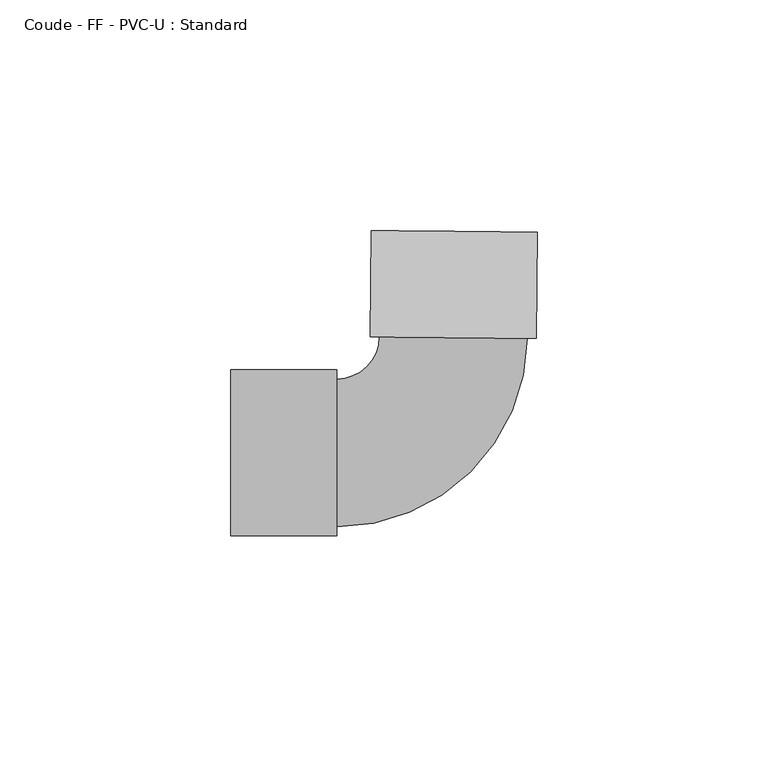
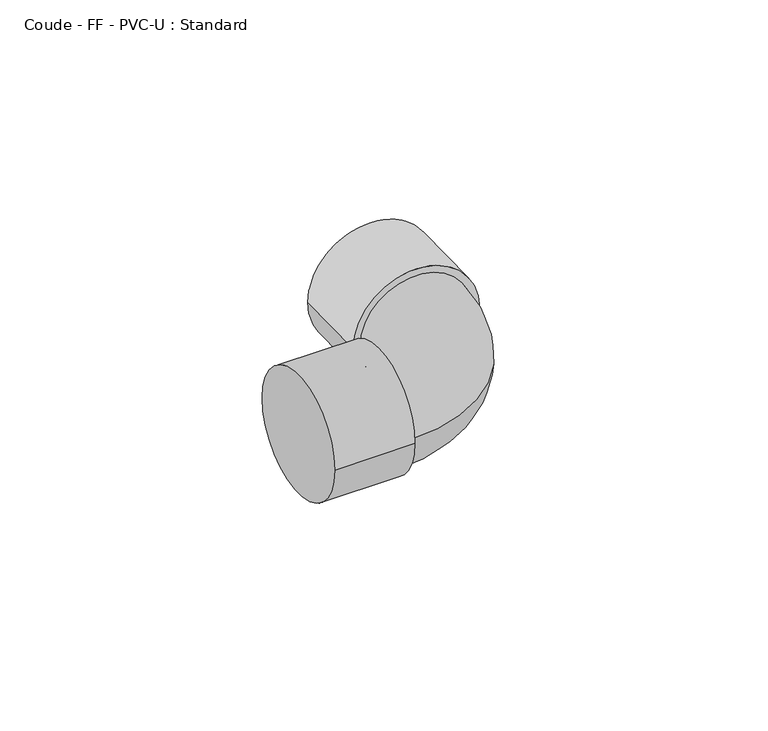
"""IFC4 building model written with IfcOpenShell, lengths in millimetres: pipe fitting geometry, Coude - FF - PVC-U : Standard."""

import ifcopenshell
import ifcopenshell.guid

model = None  # the IFC model being written
_history = None  # IfcOwnerHistory: only IFC2X3 demands one
_inside = {}  # id of a spatial element -> (the spatial element, [elements in it])
_under = {}  # id of a project, library or spatial element -> (it, [spatial elements below it])
_declared = {}  # id of a project -> (the project, [libraries it declares])
_typed = {}  # id of a type object -> (the type object, [elements of that type])
_made_of = {}  # id of a material, layer set ... -> (it, [elements and type objects made of it])


def new_model(schema):
    """Start an empty IFC model of exactly this schema.

    Asked for "IFC4X3", IfcOpenShell would pick the latest addendum, in which some entities
    have other attributes; the version numbers below select the first issue.
    IFC2X3 requires an IfcOwnerHistory on every rooted entity: one is made here for all.
    """
    global model, _history
    if schema == "IFC4X3":
        model = ifcopenshell.file(schema_version=(4, 3, 0, 0))
    else:
        model = ifcopenshell.file(schema=schema)
    _inside.clear()
    _under.clear()
    _declared.clear()
    _typed.clear()
    _made_of.clear()
    _history = None
    if model.schema == "IFC2X3":
        org = make("IfcOrganization", Name="unknown")
        user = make(
            "IfcPersonAndOrganization",
            ThePerson=make("IfcPerson", FamilyName="unknown"),
            TheOrganization=org,
        )
        app = make(
            "IfcApplication",
            ApplicationDeveloper=org,
            Version="unknown",
            ApplicationFullName="unknown",
            ApplicationIdentifier="unknown",
        )
        _history = make(
            "IfcOwnerHistory",
            OwningUser=user,
            OwningApplication=app,
            ChangeAction="ADDED",
            CreationDate=0,
        )
    return model


def make(cls, **values):
    """One entity of the class cls with the attributes given. An attribute that is None is left unset."""
    return model.create_entity(
        cls, **{name: value for name, value in values.items() if value is not None}
    )


def rooted(cls, **values):
    """An entity with a GlobalId (a new one), such as an element, a storey or a relation."""
    return make(cls, GlobalId=ifcopenshell.guid.new(), OwnerHistory=_history, **values)


def si_unit(unit_type, name, prefix=None):
    """IfcSIUnit, for example si_unit("LENGTHUNIT", "METRE", prefix="MILLI")."""
    return make("IfcSIUnit", UnitType=unit_type, Prefix=prefix, Name=name)


def assignment(units):
    """IfcUnitAssignment: the units of a project."""
    return None if units is None else make("IfcUnitAssignment", Units=units)


def point(xyz):
    """IfcCartesianPoint."""
    return None if xyz is None else make("IfcCartesianPoint", Coordinates=xyz)


def direction(xyz):
    """IfcDirection."""
    return None if xyz is None else make("IfcDirection", DirectionRatios=xyz)


def frame(location, z_axis=None, x_axis=None):
    """IfcAxis2Placement3D, a coordinate frame: its origin and axes. An axis left out is left unset."""
    return make(
        "IfcAxis2Placement3D",
        Location=point(location),
        Axis=direction(z_axis),
        RefDirection=direction(x_axis),
    )


def origin():
    """The frame at (0, 0, 0) with its axes left unset."""
    return frame((0.0, 0.0, 0.0))


def place(relative_to, where):
    """IfcLocalPlacement: puts the frame where relative to a parent placement (None: the world)."""
    return make(
        "IfcLocalPlacement", PlacementRelTo=relative_to, RelativePlacement=where
    )


def context(
    kind, dimensions, precision=None, world=None, true_north=None, identifier=None
):
    """IfcGeometricRepresentationContext, for example the 3D "Model" context."""
    return make(
        "IfcGeometricRepresentationContext",
        ContextIdentifier=identifier,
        ContextType=kind,
        CoordinateSpaceDimension=dimensions,
        Precision=precision,
        WorldCoordinateSystem=world,
        TrueNorth=true_north,
    )


def project(units=None, contexts=None):
    """IfcProject with its units and contexts."""
    return rooted(
        "IfcProject",
        Name="project",
        RepresentationContexts=contexts,
        UnitsInContext=assignment(units),
    )


def spatial(cls, under=None, at=None, **own):
    """A site, building, storey or space (cls), placed at a placement, below another one or the project."""
    s = rooted(cls, ObjectPlacement=at, **own)
    if under is not None:
        _under.setdefault(under.id(), (under, []))[1].append(s)
    return s


def circle_curve(where, radius):
    """IfcCircle in the frame where."""
    return make("IfcCircle", Position=where, Radius=radius)


def ellipse_curve(where, semi_axis1, semi_axis2):
    """IfcEllipse in the frame where."""
    return make(
        "IfcEllipse", Position=where, SemiAxis1=semi_axis1, SemiAxis2=semi_axis2
    )


def trimmed(basis, trim1, trim2, sense, master):
    """IfcTrimmedCurve: the piece of a basis curve between two trims."""
    return make(
        "IfcTrimmedCurve",
        BasisCurve=basis,
        Trim1=trim1,
        Trim2=trim2,
        SenseAgreement=sense,
        MasterRepresentation=master,
    )


def shape(context_of_items, identifier, shape_type, items):
    """IfcShapeRepresentation: the items that make up one representation, for example the "Body"."""
    return make(
        "IfcShapeRepresentation",
        ContextOfItems=context_of_items,
        RepresentationIdentifier=identifier,
        RepresentationType=shape_type,
        Items=items,
    )


def source(mapping_origin, context_of_items, identifier, shape_type, items):
    """IfcRepresentationMap: a shape defined once, which mapped items show again and again."""
    return make(
        "IfcRepresentationMap",
        MappingOrigin=mapping_origin,
        MappedRepresentation=shape(context_of_items, identifier, shape_type, items),
    )


def transform(
    local_origin,
    x_axis=None,
    y_axis=None,
    z_axis=None,
    scale=None,
    scale2=None,
    scale3=None,
    uniform=True,
):
    """IfcCartesianTransformationOperator3D, or its non-uniform kind. x_axis, y_axis, z_axis: its Axis1, 2, 3."""
    if uniform:
        return make(
            "IfcCartesianTransformationOperator3D",
            Axis1=direction(x_axis),
            Axis2=direction(y_axis),
            LocalOrigin=point(local_origin),
            Scale=scale,
            Axis3=direction(z_axis),
        )
    return make(
        "IfcCartesianTransformationOperator3DnonUniform",
        Axis1=direction(x_axis),
        Axis2=direction(y_axis),
        LocalOrigin=point(local_origin),
        Scale=scale,
        Axis3=direction(z_axis),
        Scale2=scale2,
        Scale3=scale3,
    )


def mapped(mapping_source, mapping_target):
    """IfcMappedItem: shows the shape of a source again, moved by a transform."""
    return make(
        "IfcMappedItem", MappingSource=mapping_source, MappingTarget=mapping_target
    )


def made_of(thing, what):
    """Note that an element or type object is made of a material, layer set ...; save() writes the relation."""
    if what is not None:
        _made_of.setdefault(what.id(), (what, []))[1].append(thing)
    return thing


def element(
    cls,
    number,
    at=None,
    inside=None,
    cuts=None,
    type_object=None,
    material=None,
    context=None,
    identifier="Body",
    shape_type=None,
    held_by="IfcProductDefinitionShape",
    body=None,
    shapes=None,
    **own,
):
    """One element of the class cls, such as IfcWall. Its Tag is "e" and its number.

    at: its placement. inside: the storey or other place that contains it. cuts: it is an
    opening in that element (IfcRelVoidsElement). A single representation is given by context,
    identifier, shape_type and body (its items); several are given by shapes. held_by: the class
    of the entity that holds the representations. save() writes the other relations.
    """
    e = rooted(cls, Tag="e%d" % number, ObjectPlacement=at, **own)
    if body is not None:
        shapes = [shape(context, identifier, shape_type, body)]
    if shapes is not None:
        e.Representation = make(held_by, Representations=shapes)
    if inside is not None:
        _inside.setdefault(inside.id(), (inside, []))[1].append(e)
    if cuts is not None:
        rooted(
            "IfcRelVoidsElement", RelatingBuildingElement=cuts, RelatedOpeningElement=e
        )
    if type_object is not None:
        _typed.setdefault(type_object.id(), (type_object, []))[1].append(e)
    return made_of(e, material)


def aggregate(whole, parts):
    """IfcRelAggregates: a whole, such as a stair, and the parts it consists of."""
    return rooted("IfcRelAggregates", RelatingObject=whole, RelatedObjects=parts)


def save(model, path):
    """Write the relations noted so far, then the file.

    IfcRelAggregates (storeys below a building ...), IfcRelContainedInSpatialStructure (elements
    in a storey), IfcRelDefinesByType, IfcRelAssociatesMaterial and IfcRelDeclares: one each for
    every whole, place, type object, material and project.
    """
    for whole, parts in _under.values():
        aggregate(whole, parts)
    for where, things in _inside.values():
        rooted(
            "IfcRelContainedInSpatialStructure",
            RelatedElements=things,
            RelatingStructure=where,
        )
    for kind, things in _typed.values():
        rooted("IfcRelDefinesByType", RelatedObjects=things, RelatingType=kind)
    for what, things in _made_of.values():
        rooted("IfcRelAssociatesMaterial", RelatedObjects=things, RelatingMaterial=what)
    for by, libraries in _declared.values():
        rooted("IfcRelDeclares", RelatingContext=by, RelatedDefinitions=libraries)
    model.write(path)


def plane_surface(at):
    """IfcPlane: the flat surface through the origin of the frame at, square to its z axis."""
    return make("IfcPlane", Position=at)


def cylinder_surface(at, radius):
    """IfcCylindricalSurface: all points at the distance radius from the z axis of the frame at."""
    return make("IfcCylindricalSurface", Position=at, Radius=radius)


def revolved_surface(curve, axis_point, axis_direction):
    """IfcSurfaceOfRevolution: the curve turned about the line through axis_point along axis_direction."""
    return make(
        "IfcSurfaceOfRevolution",
        SweptCurve=make("IfcArbitraryOpenProfileDef", ProfileType="CURVE", Curve=curve),
        AxisPosition=make("IfcAxis1Placement", Location=point(axis_point), Axis=direction(axis_direction)),
    )


def advanced_brep(points, edges, surfaces, faces):
    """IfcAdvancedBrep: a solid bounded by faces that lie on surfaces and meet in shared edges.

    An edge is (start, end): straight between two places in points (the first is 0);
    or (start, end, curve); or (start, end, curve, False) where it runs against its curve.
    A face is (place in surfaces, loops), or (place, loops, False) where it looks against
    its surface's normal. A loop lists edges by number (the first is 1), with a minus sign
    where the edge is run from its end to its start. The first loop is the outer one.
    """
    corners = [point(p) for p in points]
    vertices = [make("IfcVertexPoint", VertexGeometry=c) for c in corners]
    made = []
    for start, end, *more in edges:
        made.append(
            make(
                "IfcEdgeCurve",
                EdgeStart=vertices[start],
                EdgeEnd=vertices[end],
                EdgeGeometry=more[0] if more else make("IfcPolyline", Points=[corners[start], corners[end]]),
                SameSense=more[1] if len(more) > 1 else True,
            )
        )
    hull = []
    for where, loops, *sense in faces:
        bounds = []
        for j, loop in enumerate(loops):
            ring = [make("IfcOrientedEdge", EdgeElement=made[abs(k) - 1], Orientation=k > 0) for k in loop]
            bounds.append(
                make(
                    "IfcFaceOuterBound" if j == 0 else "IfcFaceBound",
                    Bound=make("IfcEdgeLoop", EdgeList=ring),
                    Orientation=True,
                )
            )
        hull.append(make("IfcAdvancedFace", Bounds=bounds, FaceSurface=surfaces[where], SameSense=sense[0] if sense else True))
    return make("IfcAdvancedBrep", Outer=make("IfcClosedShell", CfsFaces=hull))


def coude_ff_pvc_u_standard_bd2dabcf(model_context):
    return source(origin(), model_context, "Body", "AdvancedBrep", [
        advanced_brep(
        [(-48.0, -18.0, 0.0), (-48.0, 18.0, 0.0), (-25.0, -18.0, 0.0), (-25.0, 18.0, 0.0), (-25.0, -16.0, 0.0), (-25.0, 16.0, 0.0), (-15.7485963, 25.1591279, 0.0), (16.249796, 24.83836, 0.0), (18.2496955, 24.818312, 0.0), (-17.7484958, 25.1791759, 0.0), (18.4802474, 47.8171565, 0.0), (-17.5179439, 48.1780203, 0.0)],
        [
            (0, 1, circle_curve(frame((-48.0, 0.0, 0.0), z_axis=(-1.0, 0.0, 0.0), x_axis=(0.0, 1.0, 0.0)), 18.0)),
            (1, 0, circle_curve(frame((-48.0, 0.0, 0.0), z_axis=(-1.0, 0.0, 0.0), x_axis=(0.0, 1.0, 0.0)), 18.0)),
            (2, 3, circle_curve(frame((-25.0, 0.0, 0.0), z_axis=(1.0, 0.0, 0.0), x_axis=(0.0, 1.0, 0.0)), 18.0)),
            (3, 2, circle_curve(frame((-25.0, 0.0, 0.0), z_axis=(1.0, 0.0, 0.0), x_axis=(0.0, 1.0, 0.0)), 18.0)),
            (4, 5, circle_curve(frame((-25.0, 0.0, 0.0), z_axis=(-1.0, 0.0, 0.0), x_axis=(0.0, 1.0, 0.0)), 16.0)),
            (5, 4, circle_curve(frame((-25.0, 0.0, 0.0), z_axis=(-1.0, 0.0, 0.0), x_axis=(0.0, 1.0, 0.0)), 16.0)),
            (0, 2),
            (3, 1),
            (6, 5, circle_curve(frame((-25.0, 25.2518686, 0.0), z_axis=(0.0, 0.0, -1.0), x_axis=(0.0, -1.0, 0.0)), 9.2518686)),
            (4, 7, circle_curve(frame((-25.0, 25.2518686, 0.0), z_axis=(0.0, 0.0, 1.0), x_axis=(0.0, -1.0, 0.0)), 41.2518686)),
            (7, 6, circle_curve(frame((0.2505999, 24.998744, 0.0), z_axis=(-0.010023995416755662, -0.9999497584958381, 0.0), x_axis=(-0.9999497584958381, 0.010023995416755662, 0.0)), 16.0)),
            (6, 7, circle_curve(frame((0.2505999, 24.998744, 0.0), z_axis=(-0.010023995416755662, -0.9999497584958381, 0.0), x_axis=(-0.9999497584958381, 0.010023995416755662, 0.0)), 16.0)),
            (8, 9, circle_curve(frame((0.2505999, 24.998744, 0.0), z_axis=(-0.010023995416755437, -0.9999497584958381, 0.0), x_axis=(-0.9999497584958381, 0.010023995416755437, 0.0)), 18.0)),
            (9, 8, circle_curve(frame((0.2505999, 24.998744, 0.0), z_axis=(-0.010023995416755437, -0.9999497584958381, 0.0), x_axis=(-0.9999497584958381, 0.010023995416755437, 0.0)), 18.0)),
            (10, 11, circle_curve(frame((0.4811518, 47.9975884, 0.0), z_axis=(0.010023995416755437, 0.9999497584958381, 0.0), x_axis=(-0.9999497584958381, 0.010023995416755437, 0.0)), 18.0)),
            (11, 10, circle_curve(frame((0.4811518, 47.9975884, 0.0), z_axis=(0.010023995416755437, 0.9999497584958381, 0.0), x_axis=(-0.9999497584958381, 0.010023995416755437, 0.0)), 18.0)),
            (8, 10),
            (11, 9),
        ],
        [
            plane_surface(frame((-48.0, 0.0, 0.0), z_axis=(-1.0, 0.0, 0.0), x_axis=(0.0, 0.0, 1.0))),
            plane_surface(frame((-25.0, 0.0, 0.0), z_axis=(1.0, 0.0, 0.0), x_axis=(0.0, 0.0, 1.0))),
            cylinder_surface(frame((-48.0, 0.0, 0.0), z_axis=(-1.0, 0.0, 0.0), x_axis=(0.0, 1.0, 0.0)), 18.0),
            revolved_surface(trimmed(ellipse_curve(frame((-25.0, 0.0, 0.0), z_axis=(-1.0, 0.0, 0.0), x_axis=(0.0, 1.0, 0.0)), 16.0, 16.0), [point((-25.0, -16.0, 0.0))], [point((-25.0, 16.0, 0.0))], True, "CARTESIAN"), (-25.0, 25.2518686, 0.0), (0.0, 0.0, 1.0)),
            revolved_surface(trimmed(ellipse_curve(frame((-25.0, 0.0, 0.0), z_axis=(-1.0, 0.0, 0.0), x_axis=(0.0, 1.0, 0.0)), 16.0, 16.0), [point((-25.0, 16.0, 0.0))], [point((-25.0, -16.0, 0.0))], True, "CARTESIAN"), (-25.0, 25.2518686, 0.0), (0.0, 0.0, 1.0)),
            plane_surface(frame((0.2505999, 24.998744, 0.0), z_axis=(-0.010023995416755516, -0.9999497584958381, 0.0), x_axis=(0.0, 0.0, 1.0))),
            plane_surface(frame((0.4811518, 47.9975884, 0.0), z_axis=(0.010023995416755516, 0.9999497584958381, 0.0), x_axis=(0.0, 0.0, 1.0))),
            cylinder_surface(frame((0.2505999, 24.998744, 0.0), z_axis=(-0.010023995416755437, -0.9999497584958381, 0.0), x_axis=(-0.9999497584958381, 0.010023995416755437, 0.0)), 18.0),
        ],
        [
            (0, [[1, 2]]),
            (1, [[3, 4], [5, 6]]),
            (2, [[-1, 7, -4, 8]]),
            (2, [[-2, -8, -3, -7]]),
            (3, [[9, -5, 10, 11]]),
            (4, [[-9, 12, -10, -6]]),
            (5, [[13, 14], [-11, -12]]),
            (6, [[15, 16]]),
            (7, [[-13, 17, -16, 18]]),
            (7, [[-14, -18, -15, -17]]),
        ],
    ),
    ])


if __name__ == "__main__":
    model = new_model("IFC4")
    model_context = context("Model", 3, world=origin())
    ifc_project = project(units=[si_unit("LENGTHUNIT", "METRE", prefix="MILLI")], contexts=[model_context])
    site = spatial("IfcSite", under=ifc_project)
    building = spatial("IfcBuilding", under=site)
    placement = place(None, origin())
    coude_ff_pvc_u_standard_shape = coude_ff_pvc_u_standard_bd2dabcf(model_context)
    element("IfcPipeFitting", 1, ObjectType="Coude - FF - PVC-U : Standard", at=placement, inside=building, context=model_context, shape_type="MappedRepresentation", body=[
        mapped(coude_ff_pvc_u_standard_shape, transform((0.0, 0.0, 0.0), x_axis=(1.0, 0.0, 0.0), y_axis=(0.0, 1.0, 0.0), z_axis=(0.0, 0.0, 1.0))),
    ])
    save(model, "model.ifc")
